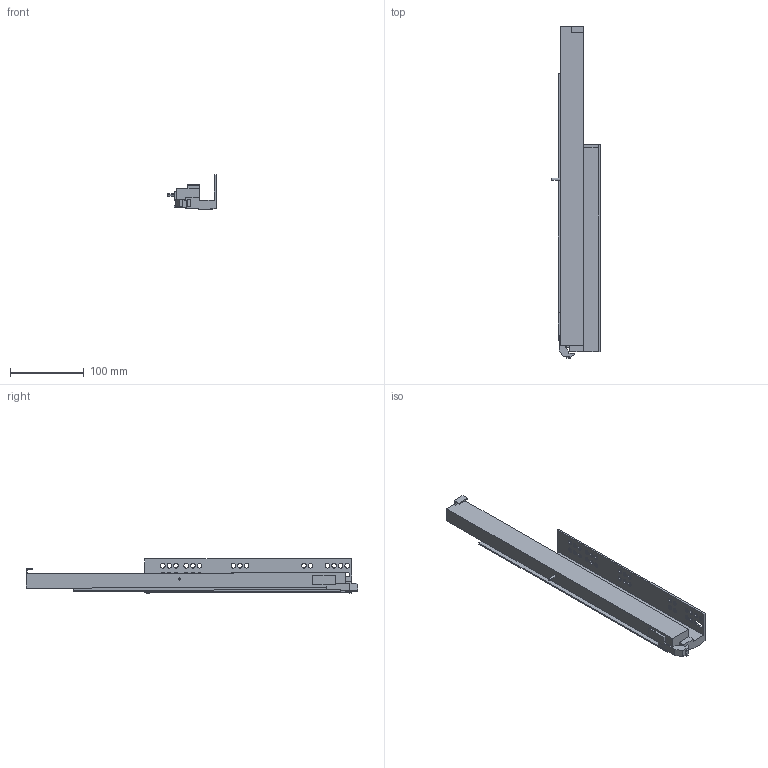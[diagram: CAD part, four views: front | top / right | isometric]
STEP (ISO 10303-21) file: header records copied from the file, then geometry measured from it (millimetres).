
FILE_DESCRIPTION (( 'STEP AP203' ), '1' );
FILE_NAME ('IMOS_Dynapro_Tipmatic_D51_NL_0_RE.STEP', '2013-03-22T12:10:22', ( 'Grass GmbH' ), ( 'Grass GmbH' ), 'SwSTEP 2.0', 'SolidWorks 2012', '' );
FILE_SCHEMA (( 'CONFIG_CONTROL_DESIGN' ));
Length unit declared in the file: millimetre
Products named in the file (1): IMOS_Dynapro_Tipmatic_D51_NL_0_RE
Bounding box: 65.92 x 451.55 x 47.53 mm (x, y, z)
Volume: 414733.5 mm3; surface area: 94861.7 mm2
Topology: 1 solids, 1 shells, 162 faces, 464 edges, 309 vertices
Faces by surface type: plane 97, cylinder 65
Entity records: 5503 total; most frequent: CARTESIAN_POINT 936, ORIENTED_EDGE 928, DIRECTION 920, EDGE_CURVE 464, VECTOR 334, LINE 334, VERTEX_POINT 309, AXIS2_PLACEMENT_3D 293
